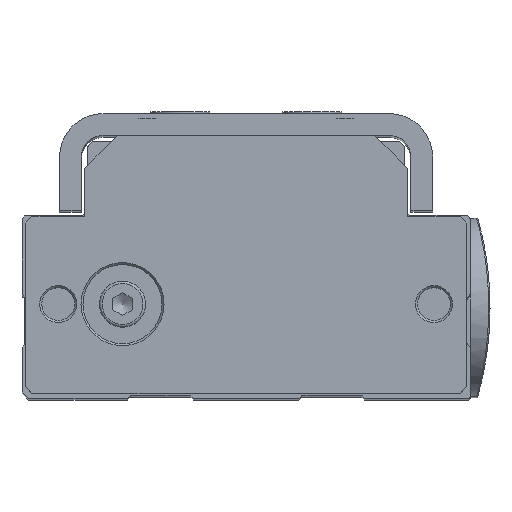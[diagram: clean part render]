
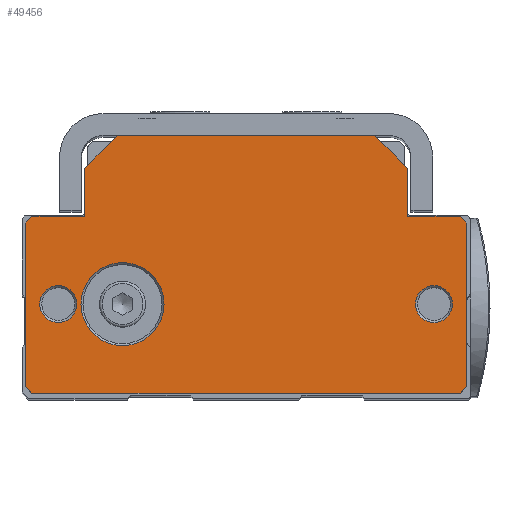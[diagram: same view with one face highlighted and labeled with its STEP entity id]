
A CAD part, top view. The second image highlights one B-rep face of the part: STEP entity #49456.
In plain terms, the highlighted planar face has unit normal (0, 0, 1).
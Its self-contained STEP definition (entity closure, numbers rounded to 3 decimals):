
#3944=FACE_BOUND('',#11850,.T.);
#3945=FACE_BOUND('',#11851,.T.);
#3946=FACE_BOUND('',#11852,.T.);
#6398=CIRCLE('',#54188,2.8);
#6399=CIRCLE('',#54189,2.8);
#6400=CIRCLE('',#54190,2.8);
#6401=CIRCLE('',#54191,2.8);
#6402=CIRCLE('',#54192,6.3);
#6403=CIRCLE('',#54193,6.3);
#8989=FACE_OUTER_BOUND('',#11849,.T.);
#11849=EDGE_LOOP('',(#45409,#45410,#45411,#45412,#45413,#45414,#45415,#45416,
#45417,#45418,#45419,#45420,#45421,#45422));
#11850=EDGE_LOOP('',(#45423,#45424));
#11851=EDGE_LOOP('',(#45425,#45426));
#11852=EDGE_LOOP('',(#45427,#45428));
#15611=LINE('',#99561,#19344);
#15613=LINE('',#99565,#19346);
#15616=LINE('',#99571,#19349);
#15617=LINE('',#99573,#19350);
#15618=LINE('',#99575,#19351);
#15619=LINE('',#99577,#19352);
#15620=LINE('',#99579,#19353);
#15621=LINE('',#99581,#19354);
#15622=LINE('',#99583,#19355);
#15623=LINE('',#99585,#19356);
#15624=LINE('',#99587,#19357);
#15625=LINE('',#99589,#19358);
#15626=LINE('',#99591,#19359);
#15627=LINE('',#99592,#19360);
#19344=VECTOR('',#66624,10.);
#19346=VECTOR('',#66628,1000.);
#19349=VECTOR('',#66633,1000.);
#19350=VECTOR('',#66634,10.);
#19351=VECTOR('',#66635,1000.);
#19352=VECTOR('',#66636,1000.);
#19353=VECTOR('',#66637,1000.);
#19354=VECTOR('',#66638,1000.);
#19355=VECTOR('',#66639,1000.);
#19356=VECTOR('',#66640,1000.);
#19357=VECTOR('',#66641,1000.);
#19358=VECTOR('',#66642,1000.);
#19359=VECTOR('',#66643,1000.);
#19360=VECTOR('',#66644,1000.);
#24106=VERTEX_POINT('',#99558);
#24107=VERTEX_POINT('',#99560);
#24108=VERTEX_POINT('',#99564);
#24110=VERTEX_POINT('',#99570);
#24111=VERTEX_POINT('',#99572);
#24112=VERTEX_POINT('',#99574);
#24113=VERTEX_POINT('',#99576);
#24114=VERTEX_POINT('',#99578);
#24115=VERTEX_POINT('',#99580);
#24116=VERTEX_POINT('',#99582);
#24117=VERTEX_POINT('',#99584);
#24118=VERTEX_POINT('',#99586);
#24119=VERTEX_POINT('',#99588);
#24120=VERTEX_POINT('',#99590);
#24121=VERTEX_POINT('',#99593);
#24122=VERTEX_POINT('',#99594);
#24123=VERTEX_POINT('',#99597);
#24124=VERTEX_POINT('',#99598);
#24125=VERTEX_POINT('',#99601);
#24126=VERTEX_POINT('',#99602);
#31232=EDGE_CURVE('',#24106,#24107,#15611,.T.);
#31234=EDGE_CURVE('',#24107,#24108,#15613,.T.);
#31237=EDGE_CURVE('',#24106,#24110,#15616,.T.);
#31238=EDGE_CURVE('',#24111,#24110,#15617,.T.);
#31239=EDGE_CURVE('',#24112,#24111,#15618,.T.);
#31240=EDGE_CURVE('',#24113,#24112,#15619,.T.);
#31241=EDGE_CURVE('',#24113,#24114,#15620,.T.);
#31242=EDGE_CURVE('',#24114,#24115,#15621,.T.);
#31243=EDGE_CURVE('',#24115,#24116,#15622,.T.);
#31244=EDGE_CURVE('',#24117,#24116,#15623,.T.);
#31245=EDGE_CURVE('',#24117,#24118,#15624,.T.);
#31246=EDGE_CURVE('',#24118,#24119,#15625,.T.);
#31247=EDGE_CURVE('',#24119,#24120,#15626,.T.);
#31248=EDGE_CURVE('',#24108,#24120,#15627,.T.);
#31249=EDGE_CURVE('',#24121,#24122,#6398,.T.);
#31250=EDGE_CURVE('',#24122,#24121,#6399,.T.);
#31251=EDGE_CURVE('',#24123,#24124,#6400,.T.);
#31252=EDGE_CURVE('',#24124,#24123,#6401,.T.);
#31253=EDGE_CURVE('',#24125,#24126,#6402,.T.);
#31254=EDGE_CURVE('',#24126,#24125,#6403,.T.);
#45409=ORIENTED_EDGE('',*,*,#31232,.F.);
#45410=ORIENTED_EDGE('',*,*,#31237,.T.);
#45411=ORIENTED_EDGE('',*,*,#31238,.F.);
#45412=ORIENTED_EDGE('',*,*,#31239,.F.);
#45413=ORIENTED_EDGE('',*,*,#31240,.F.);
#45414=ORIENTED_EDGE('',*,*,#31241,.T.);
#45415=ORIENTED_EDGE('',*,*,#31242,.T.);
#45416=ORIENTED_EDGE('',*,*,#31243,.T.);
#45417=ORIENTED_EDGE('',*,*,#31244,.F.);
#45418=ORIENTED_EDGE('',*,*,#31245,.T.);
#45419=ORIENTED_EDGE('',*,*,#31246,.T.);
#45420=ORIENTED_EDGE('',*,*,#31247,.T.);
#45421=ORIENTED_EDGE('',*,*,#31248,.F.);
#45422=ORIENTED_EDGE('',*,*,#31234,.F.);
#45423=ORIENTED_EDGE('',*,*,#31249,.T.);
#45424=ORIENTED_EDGE('',*,*,#31250,.T.);
#45425=ORIENTED_EDGE('',*,*,#31251,.T.);
#45426=ORIENTED_EDGE('',*,*,#31252,.T.);
#45427=ORIENTED_EDGE('',*,*,#31253,.T.);
#45428=ORIENTED_EDGE('',*,*,#31254,.T.);
#46904=PLANE('',#54187);
#49456=ADVANCED_FACE('',(#8989,#3944,#3945,#3946),#46904,.T.);
#54187=AXIS2_PLACEMENT_3D('',#99569,#66631,#66632);
#54188=AXIS2_PLACEMENT_3D('',#99595,#66645,#66646);
#54189=AXIS2_PLACEMENT_3D('',#99596,#66647,#66648);
#54190=AXIS2_PLACEMENT_3D('',#99599,#66649,#66650);
#54191=AXIS2_PLACEMENT_3D('',#99600,#66651,#66652);
#54192=AXIS2_PLACEMENT_3D('',#99603,#66653,#66654);
#54193=AXIS2_PLACEMENT_3D('',#99604,#66655,#66656);
#66624=DIRECTION('',(0.707,-0.707,0.));
#66628=DIRECTION('',(0.,-1.,0.));
#66631=DIRECTION('center_axis',(0.,0.,1.));
#66632=DIRECTION('ref_axis',(1.,0.,0.));
#66633=DIRECTION('',(-1.,0.,0.));
#66634=DIRECTION('',(0.707,0.707,0.));
#66635=DIRECTION('',(0.,1.,0.));
#66636=DIRECTION('',(1.,0.,0.));
#66637=DIRECTION('',(-0.707,-0.707,0.));
#66638=DIRECTION('',(0.,-1.,0.));
#66639=DIRECTION('',(0.707,-0.707,0.));
#66640=DIRECTION('',(-1.,0.,0.));
#66641=DIRECTION('',(0.707,0.707,0.));
#66642=DIRECTION('',(0.,1.,0.));
#66643=DIRECTION('',(-0.707,0.707,0.));
#66644=DIRECTION('',(1.,0.,0.));
#66645=DIRECTION('center_axis',(0.,0.,-1.));
#66646=DIRECTION('ref_axis',(1.,0.,0.));
#66647=DIRECTION('center_axis',(0.,0.,-1.));
#66648=DIRECTION('ref_axis',(1.,0.,0.));
#66649=DIRECTION('center_axis',(0.,0.,-1.));
#66650=DIRECTION('ref_axis',(1.,0.,0.));
#66651=DIRECTION('center_axis',(0.,0.,-1.));
#66652=DIRECTION('ref_axis',(1.,0.,0.));
#66653=DIRECTION('center_axis',(0.,0.,-1.));
#66654=DIRECTION('ref_axis',(1.,0.,0.));
#66655=DIRECTION('center_axis',(0.,0.,-1.));
#66656=DIRECTION('ref_axis',(1.,0.,0.));
#99558=CARTESIAN_POINT('',(19.5,19.575,0.));
#99560=CARTESIAN_POINT('',(24.5,14.575,0.));
#99561=CARTESIAN_POINT('',(20.769,18.306,0.));
#99564=CARTESIAN_POINT('',(24.5,7.275,0.));
#99565=CARTESIAN_POINT('',(24.5,20.025,0.));
#99569=CARTESIAN_POINT('Origin',(0.,0.,0.));
#99570=CARTESIAN_POINT('',(-19.5,19.575,0.));
#99571=CARTESIAN_POINT('',(-33.5,19.575,0.));
#99572=CARTESIAN_POINT('',(-24.5,14.575,0.));
#99573=CARTESIAN_POINT('',(-20.769,18.306,0.));
#99574=CARTESIAN_POINT('',(-24.5,7.275,0.));
#99575=CARTESIAN_POINT('',(-24.5,20.025,0.));
#99576=CARTESIAN_POINT('',(-32.5,7.275,0.));
#99577=CARTESIAN_POINT('',(-33.5,7.275,0.));
#99578=CARTESIAN_POINT('',(-33.5,6.275,0.));
#99579=CARTESIAN_POINT('',(-19.888,19.888,0.));
#99580=CARTESIAN_POINT('',(-33.5,-18.525,0.));
#99581=CARTESIAN_POINT('',(-33.5,20.025,0.));
#99582=CARTESIAN_POINT('',(-32.5,-19.525,0.));
#99583=CARTESIAN_POINT('',(-26.013,-26.012,0.));
#99584=CARTESIAN_POINT('',(32.5,-19.525,0.));
#99585=CARTESIAN_POINT('',(33.5,-19.525,0.));
#99586=CARTESIAN_POINT('',(33.5,-18.525,0.));
#99587=CARTESIAN_POINT('',(26.013,-26.012,0.));
#99588=CARTESIAN_POINT('',(33.5,6.275,0.));
#99589=CARTESIAN_POINT('',(33.5,20.025,0.));
#99590=CARTESIAN_POINT('',(32.5,7.275,0.));
#99591=CARTESIAN_POINT('',(19.888,19.888,0.));
#99592=CARTESIAN_POINT('',(33.5,7.275,0.));
#99593=CARTESIAN_POINT('',(31.3,-6.025,0.));
#99594=CARTESIAN_POINT('',(25.7,-6.025,0.));
#99595=CARTESIAN_POINT('Origin',(28.5,-6.025,0.));
#99596=CARTESIAN_POINT('Origin',(28.5,-6.025,0.));
#99597=CARTESIAN_POINT('',(-25.7,-6.025,0.));
#99598=CARTESIAN_POINT('',(-31.3,-6.025,0.));
#99599=CARTESIAN_POINT('Origin',(-28.5,-6.025,0.));
#99600=CARTESIAN_POINT('Origin',(-28.5,-6.025,0.));
#99601=CARTESIAN_POINT('',(-12.45,-6.025,0.));
#99602=CARTESIAN_POINT('',(-25.05,-6.025,0.));
#99603=CARTESIAN_POINT('Origin',(-18.75,-6.025,0.));
#99604=CARTESIAN_POINT('Origin',(-18.75,-6.025,0.));
